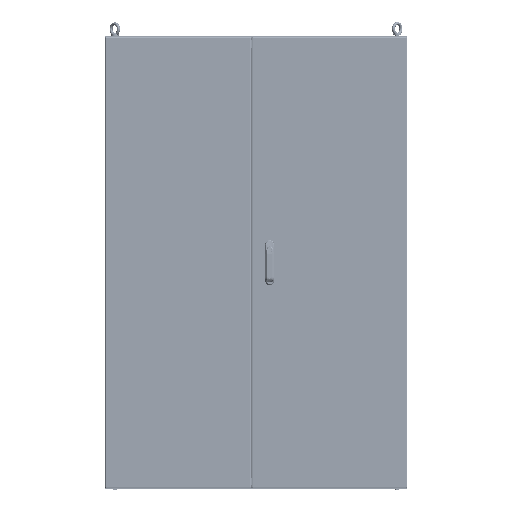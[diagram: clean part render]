
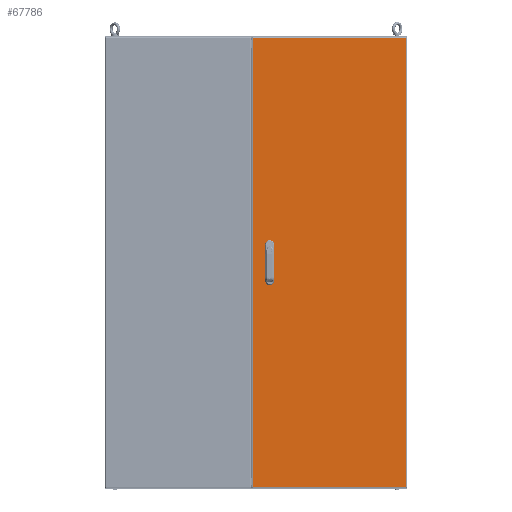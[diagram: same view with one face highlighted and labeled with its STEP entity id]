
A CAD part, front view. The second image highlights one B-rep face of the part: STEP entity #67786.
In plain terms, the highlighted planar face has unit normal (0, -1, 0).
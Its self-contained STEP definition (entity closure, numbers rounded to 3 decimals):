
#22263=ORIENTED_EDGE('',*,*,#32574,.T.);
#22264=ORIENTED_EDGE('',*,*,#32575,.T.);
#22265=ORIENTED_EDGE('',*,*,#32576,.T.);
#22266=ORIENTED_EDGE('',*,*,#32577,.T.);
#22267=ORIENTED_EDGE('',*,*,#32578,.F.);
#22268=ORIENTED_EDGE('',*,*,#32579,.T.);
#22269=ORIENTED_EDGE('',*,*,#32580,.T.);
#22270=ORIENTED_EDGE('',*,*,#32581,.T.);
#22271=ORIENTED_EDGE('',*,*,#32582,.T.);
#22272=ORIENTED_EDGE('',*,*,#32583,.T.);
#22273=ORIENTED_EDGE('',*,*,#32584,.T.);
#22274=ORIENTED_EDGE('',*,*,#32585,.T.);
#32574=EDGE_CURVE('',#39157,#39158,#45320,.T.);
#32575=EDGE_CURVE('',#39158,#39159,#45321,.T.);
#32576=EDGE_CURVE('',#39159,#39160,#45322,.T.);
#32577=EDGE_CURVE('',#39160,#39157,#45323,.T.);
#32578=EDGE_CURVE('',#39161,#39162,#45324,.T.);
#32579=EDGE_CURVE('',#39161,#39163,#45325,.T.);
#32580=EDGE_CURVE('',#39163,#39164,#45326,.T.);
#32581=EDGE_CURVE('',#39164,#39162,#45327,.T.);
#32582=EDGE_CURVE('',#39165,#39166,#45328,.T.);
#32583=EDGE_CURVE('',#39166,#39167,#45329,.T.);
#32584=EDGE_CURVE('',#39167,#39168,#45330,.T.);
#32585=EDGE_CURVE('',#39168,#39165,#45331,.T.);
#39157=VERTEX_POINT('',#120547);
#39158=VERTEX_POINT('',#120548);
#39159=VERTEX_POINT('',#120550);
#39160=VERTEX_POINT('',#120552);
#39161=VERTEX_POINT('',#120555);
#39162=VERTEX_POINT('',#120556);
#39163=VERTEX_POINT('',#120558);
#39164=VERTEX_POINT('',#120560);
#39165=VERTEX_POINT('',#120563);
#39166=VERTEX_POINT('',#120564);
#39167=VERTEX_POINT('',#120566);
#39168=VERTEX_POINT('',#120568);
#45320=LINE('',#120546,#51520);
#45321=LINE('',#120549,#51521);
#45322=LINE('',#120551,#51522);
#45323=LINE('',#120553,#51523);
#45324=LINE('',#120554,#51524);
#45325=LINE('',#120557,#51525);
#45326=LINE('',#120559,#51526);
#45327=LINE('',#120561,#51527);
#45328=LINE('',#120562,#51528);
#45329=LINE('',#120565,#51529);
#45330=LINE('',#120567,#51530);
#45331=LINE('',#120569,#51531);
#51520=VECTOR('',#94652,1000.);
#51521=VECTOR('',#94653,1000.);
#51522=VECTOR('',#94654,1000.);
#51523=VECTOR('',#94655,1000.);
#51524=VECTOR('',#94656,1000.);
#51525=VECTOR('',#94657,1000.);
#51526=VECTOR('',#94658,1000.);
#51527=VECTOR('',#94659,1000.);
#51528=VECTOR('',#94660,1000.);
#51529=VECTOR('',#94661,1000.);
#51530=VECTOR('',#94662,1000.);
#51531=VECTOR('',#94663,1000.);
#56828=EDGE_LOOP('',(#22263,#22264,#22265,#22266));
#56829=EDGE_LOOP('',(#22267,#22268,#22269,#22270));
#56830=EDGE_LOOP('',(#22271,#22272,#22273,#22274));
#61872=FACE_BOUND('',#56828,.T.);
#61873=FACE_BOUND('',#56829,.T.);
#61874=FACE_BOUND('',#56830,.T.);
#64267=PLANE('',#77486);
#67786=ADVANCED_FACE('',(#61872,#61873,#61874),#64267,.F.);
#77486=AXIS2_PLACEMENT_3D('',#120545,#94650,#94651);
#94650=DIRECTION('',(0.,1.,0.));
#94651=DIRECTION('',(1.,0.,0.));
#94652=DIRECTION('',(-1.,0.,0.));
#94653=DIRECTION('',(0.,0.,1.));
#94654=DIRECTION('',(1.,0.,0.));
#94655=DIRECTION('',(0.,0.,-1.));
#94656=DIRECTION('',(1.,0.,0.));
#94657=DIRECTION('',(0.,0.,-1.));
#94658=DIRECTION('',(1.,0.,0.));
#94659=DIRECTION('',(0.,0.,1.));
#94660=DIRECTION('',(-1.,0.,0.));
#94661=DIRECTION('',(0.,0.,1.));
#94662=DIRECTION('',(1.,0.,0.));
#94663=DIRECTION('',(0.,0.,-1.));
#120545=CARTESIAN_POINT('',(0.,-12.75,0.));
#120546=CARTESIAN_POINT('',(44.789,-12.75,-75.));
#120547=CARTESIAN_POINT('',(44.789,-12.75,-75.));
#120548=CARTESIAN_POINT('',(19.789,-12.75,-75.));
#120549=CARTESIAN_POINT('',(19.789,-12.75,-75.));
#120550=CARTESIAN_POINT('',(19.789,-12.75,-25.));
#120551=CARTESIAN_POINT('',(19.789,-12.75,-25.));
#120552=CARTESIAN_POINT('',(44.789,-12.75,-25.));
#120553=CARTESIAN_POINT('',(44.789,-12.75,-25.));
#120554=CARTESIAN_POINT('',(1.043,-12.75,891.7));
#120555=CARTESIAN_POINT('',(-34.911,-12.75,891.7));
#120556=CARTESIAN_POINT('',(573.,-12.75,891.7));
#120557=CARTESIAN_POINT('',(-34.911,-12.75,891.7));
#120558=CARTESIAN_POINT('',(-34.911,-12.75,-891.7));
#120559=CARTESIAN_POINT('',(1.043,-12.75,-891.7));
#120560=CARTESIAN_POINT('',(573.,-12.75,-891.7));
#120561=CARTESIAN_POINT('',(573.,-12.75,0.));
#120562=CARTESIAN_POINT('',(44.789,-12.75,25.));
#120563=CARTESIAN_POINT('',(44.789,-12.75,25.));
#120564=CARTESIAN_POINT('',(19.789,-12.75,25.));
#120565=CARTESIAN_POINT('',(19.789,-12.75,25.));
#120566=CARTESIAN_POINT('',(19.789,-12.75,75.));
#120567=CARTESIAN_POINT('',(19.789,-12.75,75.));
#120568=CARTESIAN_POINT('',(44.789,-12.75,75.));
#120569=CARTESIAN_POINT('',(44.789,-12.75,75.));
